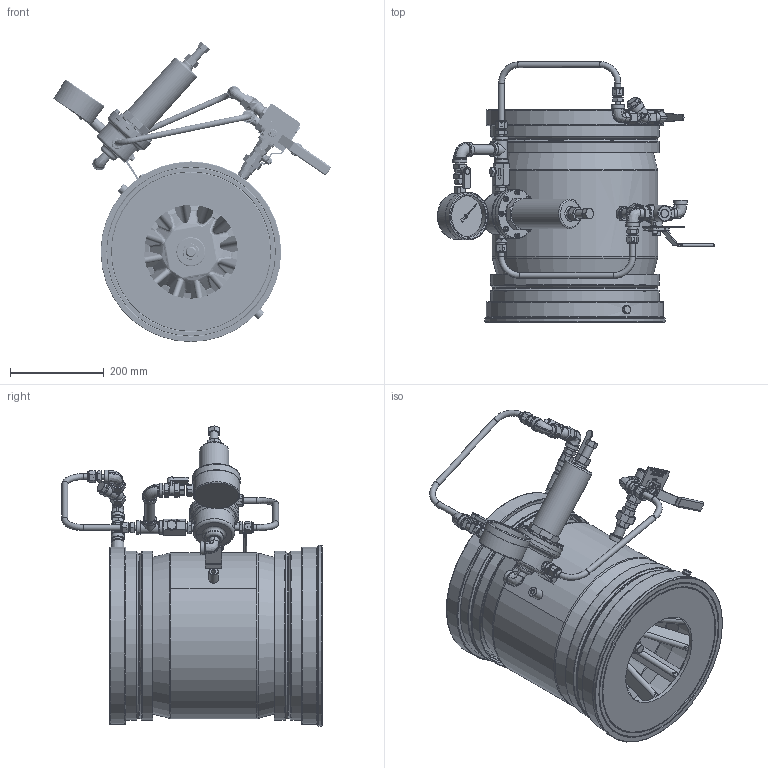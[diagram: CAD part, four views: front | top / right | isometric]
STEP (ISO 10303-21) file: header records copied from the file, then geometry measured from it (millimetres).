
FILE_DESCRIPTION(/* description */ (''),/* implementation_level */ '2;1');
FILE_NAME(/* name */ '799D-01S02 12in.stp',/* time_stamp */ '2025-02-23T15:13:03+02:00',/* author */ ('alex'),/* organization */ (''),/* preprocessor_version */ 'ST-DEVELOPER v20',/* originating_system */ 'Autodesk Inventor 2024',/* authorisation */ '');
FILE_SCHEMA (('AUTOMOTIVE_DESIGN { 1 0 10303 214 3 1 1 }'));
Products named in the file (1): 799D-01S02 12inSTEP
Bounding box: 590.6 x 554.45 x 639.68 mm (x, y, z)
Volume: 16693487.3 mm3; surface area: 3033210 mm2
Topology: 13 solids, 49 shells, 3048 faces, 7636 edges, 4757 vertices
Faces by surface type: plane 1443, cone 618, cylinder 584, bspline 302, torus 97, sphere 4
Full cylindrical faces by diameter (mm): 2 x2, 4 x10, 4.134 x1, 4.978 x4, 5 x11, 5.2 x10, 5.25 x2, 5.8 x4, 6 x2, 6.35 x10, 6.5 x8, 6.88 x2, 7 x2, 8 x1, 8.376 x2, 9.5 x1, 9.525 x8, 10 x3, 10.211 x6, 10.5 x6, 11 x1, 11.125 x2, 11.5 x4, 11.83 x1, 12.5 x1, 12.7 x6, 12.9 x8, 13 x2, 14 x4, 14.2 x1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
Entity records: 148487 total; most frequent: CARTESIAN_POINT 75892, ORIENTED_EDGE 15088, DIRECTION 13789, EDGE_CURVE 7544, AXIS2_PLACEMENT_3D 5287, VERTEX_POINT 4743, EDGE_LOOP 3404, LINE 3215
